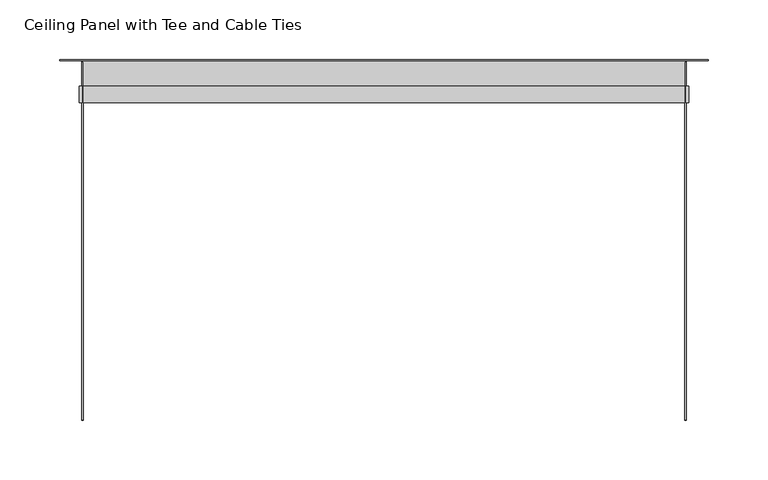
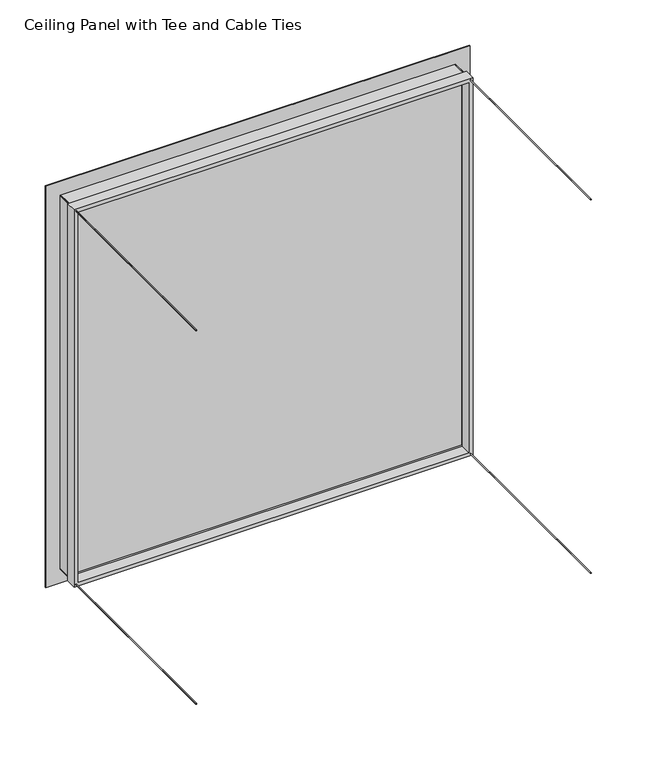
"""IFC4 building model written with IfcOpenShell, lengths in millimetres: plate geometry, Ceiling Panel with Tee and Cable Ties : Ceiling Panel (Vinyl) with Tee and Cable Ties Edge 3."""

import ifcopenshell
import ifcopenshell.guid

model = None  # the IFC model being written
_history = None  # IfcOwnerHistory: only IFC2X3 demands one
_inside = {}  # id of a spatial element -> (the spatial element, [elements in it])
_under = {}  # id of a project, library or spatial element -> (it, [spatial elements below it])
_declared = {}  # id of a project -> (the project, [libraries it declares])
_typed = {}  # id of a type object -> (the type object, [elements of that type])
_made_of = {}  # id of a material, layer set ... -> (it, [elements and type objects made of it])


def new_model(schema):
    """Start an empty IFC model of exactly this schema.

    Asked for "IFC4X3", IfcOpenShell would pick the latest addendum, in which some entities
    have other attributes; the version numbers below select the first issue.
    IFC2X3 requires an IfcOwnerHistory on every rooted entity: one is made here for all.
    """
    global model, _history
    if schema == "IFC4X3":
        model = ifcopenshell.file(schema_version=(4, 3, 0, 0))
    else:
        model = ifcopenshell.file(schema=schema)
    _inside.clear()
    _under.clear()
    _declared.clear()
    _typed.clear()
    _made_of.clear()
    _history = None
    if model.schema == "IFC2X3":
        org = make("IfcOrganization", Name="unknown")
        user = make(
            "IfcPersonAndOrganization",
            ThePerson=make("IfcPerson", FamilyName="unknown"),
            TheOrganization=org,
        )
        app = make(
            "IfcApplication",
            ApplicationDeveloper=org,
            Version="unknown",
            ApplicationFullName="unknown",
            ApplicationIdentifier="unknown",
        )
        _history = make(
            "IfcOwnerHistory",
            OwningUser=user,
            OwningApplication=app,
            ChangeAction="ADDED",
            CreationDate=0,
        )
    return model


def make(cls, **values):
    """One entity of the class cls with the attributes given. An attribute that is None is left unset."""
    return model.create_entity(
        cls, **{name: value for name, value in values.items() if value is not None}
    )


def rooted(cls, **values):
    """An entity with a GlobalId (a new one), such as an element, a storey or a relation."""
    return make(cls, GlobalId=ifcopenshell.guid.new(), OwnerHistory=_history, **values)


def si_unit(unit_type, name, prefix=None):
    """IfcSIUnit, for example si_unit("LENGTHUNIT", "METRE", prefix="MILLI")."""
    return make("IfcSIUnit", UnitType=unit_type, Prefix=prefix, Name=name)


def assignment(units):
    """IfcUnitAssignment: the units of a project."""
    return None if units is None else make("IfcUnitAssignment", Units=units)


def point(xyz):
    """IfcCartesianPoint."""
    return None if xyz is None else make("IfcCartesianPoint", Coordinates=xyz)


def direction(xyz):
    """IfcDirection."""
    return None if xyz is None else make("IfcDirection", DirectionRatios=xyz)


def frame(location, z_axis=None, x_axis=None):
    """IfcAxis2Placement3D, a coordinate frame: its origin and axes. An axis left out is left unset."""
    return make(
        "IfcAxis2Placement3D",
        Location=point(location),
        Axis=direction(z_axis),
        RefDirection=direction(x_axis),
    )


def frame_2d(location, x_axis=None):
    """IfcAxis2Placement2D, a coordinate frame in the plane: its origin and x axis."""
    return make(
        "IfcAxis2Placement2D", Location=point(location), RefDirection=direction(x_axis)
    )


def origin():
    """The frame at (0, 0, 0) with its axes left unset."""
    return frame((0.0, 0.0, 0.0))


def origin_with_axes():
    """The frame at (0, 0, 0) with the z axis (0, 0, 1) and the x axis (1, 0, 0) written out."""
    return frame((0.0, 0.0, 0.0), z_axis=(0.0, 0.0, 1.0), x_axis=(1.0, 0.0, 0.0))


def place(relative_to, where):
    """IfcLocalPlacement: puts the frame where relative to a parent placement (None: the world)."""
    return make(
        "IfcLocalPlacement", PlacementRelTo=relative_to, RelativePlacement=where
    )


def context(
    kind, dimensions, precision=None, world=None, true_north=None, identifier=None
):
    """IfcGeometricRepresentationContext, for example the 3D "Model" context."""
    return make(
        "IfcGeometricRepresentationContext",
        ContextIdentifier=identifier,
        ContextType=kind,
        CoordinateSpaceDimension=dimensions,
        Precision=precision,
        WorldCoordinateSystem=world,
        TrueNorth=true_north,
    )


def project(units=None, contexts=None):
    """IfcProject with its units and contexts."""
    return rooted(
        "IfcProject",
        Name="project",
        RepresentationContexts=contexts,
        UnitsInContext=assignment(units),
    )


def spatial(cls, under=None, at=None, **own):
    """A site, building, storey or space (cls), placed at a placement, below another one or the project."""
    s = rooted(cls, ObjectPlacement=at, **own)
    if under is not None:
        _under.setdefault(under.id(), (under, []))[1].append(s)
    return s


def polyline(points):
    """IfcPolyline through the points."""
    return make("IfcPolyline", Points=[point(p) for p in points])


def circle_curve(where, radius):
    """IfcCircle in the frame where."""
    return make("IfcCircle", Position=where, Radius=radius)


def trimmed(basis, trim1, trim2, sense, master):
    """IfcTrimmedCurve: the piece of a basis curve between two trims."""
    return make(
        "IfcTrimmedCurve",
        BasisCurve=basis,
        Trim1=trim1,
        Trim2=trim2,
        SenseAgreement=sense,
        MasterRepresentation=master,
    )


def segment(curve, same_sense, transition):
    """IfcCompositeCurveSegment."""
    return make(
        "IfcCompositeCurveSegment",
        Transition=transition,
        SameSense=same_sense,
        ParentCurve=curve,
    )


def composite_curve(segments, self_intersect=None):
    """IfcCompositeCurve: segments joined end to end."""
    return make("IfcCompositeCurve", Segments=segments, SelfIntersect=self_intersect)


def outline(outer, holes=None, kind="AREA"):
    """IfcArbitraryClosedProfileDef: a profile drawn as a closed curve; with holes, ...WithVoids."""
    if holes is None:
        return make("IfcArbitraryClosedProfileDef", ProfileType=kind, OuterCurve=outer)
    return make(
        "IfcArbitraryProfileDefWithVoids",
        ProfileType=kind,
        OuterCurve=outer,
        InnerCurves=holes,
    )


def extrude(swept, where, along, depth):
    """IfcExtrudedAreaSolid: the profile swept, set in the frame where, extruded along a direction by depth."""
    return make(
        "IfcExtrudedAreaSolid",
        SweptArea=swept,
        Position=where,
        ExtrudedDirection=direction(along),
        Depth=depth,
    )


def faces_of(points, faces, orient=None, outer=None):
    """IfcFace entities. A face is a list of loops; a loop is a list of indices into points, from 0.

    orient and outer hold one flag for each loop. By default every Orientation is true, the
    first loop of a face is its IfcFaceOuterBound and the others are IfcFaceBound.
    """
    made = []
    for i, loops in enumerate(faces):
        bounds = []
        for j, loop in enumerate(loops):
            is_outer = j == 0 if outer is None else outer[i][j]
            bounds.append(
                make(
                    "IfcFaceOuterBound" if is_outer else "IfcFaceBound",
                    Bound=make("IfcPolyLoop", Polygon=[points[k] for k in loop]),
                    Orientation=True if orient is None else orient[i][j],
                )
            )
        made.append(make("IfcFace", Bounds=bounds))
    return made


def faceted_brep(points, faces, orient=None, outer=None, voids=None):
    """IfcFacetedBrep: a solid bounded by flat faces; with voids (closed shells), ...WithVoids."""
    shared = [point(p) for p in points]
    hull = make("IfcClosedShell", CfsFaces=faces_of(shared, faces, orient, outer))
    if voids is None:
        return make("IfcFacetedBrep", Outer=hull)
    return make(
        "IfcFacetedBrepWithVoids",
        Outer=hull,
        Voids=[
            make(cls, CfsFaces=faces_of(shared, fs, o, b)) for cls, fs, o, b in voids
        ],
    )


def shape(context_of_items, identifier, shape_type, items):
    """IfcShapeRepresentation: the items that make up one representation, for example the "Body"."""
    return make(
        "IfcShapeRepresentation",
        ContextOfItems=context_of_items,
        RepresentationIdentifier=identifier,
        RepresentationType=shape_type,
        Items=items,
    )


def source(mapping_origin, context_of_items, identifier, shape_type, items):
    """IfcRepresentationMap: a shape defined once, which mapped items show again and again."""
    return make(
        "IfcRepresentationMap",
        MappingOrigin=mapping_origin,
        MappedRepresentation=shape(context_of_items, identifier, shape_type, items),
    )


def transform(
    local_origin,
    x_axis=None,
    y_axis=None,
    z_axis=None,
    scale=None,
    scale2=None,
    scale3=None,
    uniform=True,
):
    """IfcCartesianTransformationOperator3D, or its non-uniform kind. x_axis, y_axis, z_axis: its Axis1, 2, 3."""
    if uniform:
        return make(
            "IfcCartesianTransformationOperator3D",
            Axis1=direction(x_axis),
            Axis2=direction(y_axis),
            LocalOrigin=point(local_origin),
            Scale=scale,
            Axis3=direction(z_axis),
        )
    return make(
        "IfcCartesianTransformationOperator3DnonUniform",
        Axis1=direction(x_axis),
        Axis2=direction(y_axis),
        LocalOrigin=point(local_origin),
        Scale=scale,
        Axis3=direction(z_axis),
        Scale2=scale2,
        Scale3=scale3,
    )


def mapped(mapping_source, mapping_target):
    """IfcMappedItem: shows the shape of a source again, moved by a transform."""
    return make(
        "IfcMappedItem", MappingSource=mapping_source, MappingTarget=mapping_target
    )


def made_of(thing, what):
    """Note that an element or type object is made of a material, layer set ...; save() writes the relation."""
    if what is not None:
        _made_of.setdefault(what.id(), (what, []))[1].append(thing)
    return thing


def element(
    cls,
    number,
    at=None,
    inside=None,
    cuts=None,
    type_object=None,
    material=None,
    context=None,
    identifier="Body",
    shape_type=None,
    held_by="IfcProductDefinitionShape",
    body=None,
    shapes=None,
    **own,
):
    """One element of the class cls, such as IfcWall. Its Tag is "e" and its number.

    at: its placement. inside: the storey or other place that contains it. cuts: it is an
    opening in that element (IfcRelVoidsElement). A single representation is given by context,
    identifier, shape_type and body (its items); several are given by shapes. held_by: the class
    of the entity that holds the representations. save() writes the other relations.
    """
    e = rooted(cls, Tag="e%d" % number, ObjectPlacement=at, **own)
    if body is not None:
        shapes = [shape(context, identifier, shape_type, body)]
    if shapes is not None:
        e.Representation = make(held_by, Representations=shapes)
    if inside is not None:
        _inside.setdefault(inside.id(), (inside, []))[1].append(e)
    if cuts is not None:
        rooted(
            "IfcRelVoidsElement", RelatingBuildingElement=cuts, RelatedOpeningElement=e
        )
    if type_object is not None:
        _typed.setdefault(type_object.id(), (type_object, []))[1].append(e)
    return made_of(e, material)


def aggregate(whole, parts):
    """IfcRelAggregates: a whole, such as a stair, and the parts it consists of."""
    return rooted("IfcRelAggregates", RelatingObject=whole, RelatedObjects=parts)


def save(model, path):
    """Write the relations noted so far, then the file.

    IfcRelAggregates (storeys below a building ...), IfcRelContainedInSpatialStructure (elements
    in a storey), IfcRelDefinesByType, IfcRelAssociatesMaterial and IfcRelDeclares: one each for
    every whole, place, type object, material and project.
    """
    for whole, parts in _under.values():
        aggregate(whole, parts)
    for where, things in _inside.values():
        rooted(
            "IfcRelContainedInSpatialStructure",
            RelatedElements=things,
            RelatingStructure=where,
        )
    for kind, things in _typed.values():
        rooted("IfcRelDefinesByType", RelatedObjects=things, RelatingType=kind)
    for what, things in _made_of.values():
        rooted("IfcRelAssociatesMaterial", RelatedObjects=things, RelatingMaterial=what)
    for by, libraries in _declared.values():
        rooted("IfcRelDeclares", RelatingContext=by, RelatedDefinitions=libraries)
    model.write(path)


def ceiling_panel_with_tee_and_cable_ties_1653b4b1(model_context):
    return source(origin(), model_context, "Body", "SolidModel", [
        extrude(outline(composite_curve([segment(trimmed(circle_curve(frame_2d((505.0, 252.4999998)), 0.5), [point((505.0, 252.9999998))], [point((505.0, 251.9999998))], False, "CARTESIAN"), True, "CONTINUOUS"), segment(trimmed(circle_curve(frame_2d((505.0, 252.4999998)), 0.5), [point((505.0, 251.9999998))], [point((505.0, 252.9999998))], False, "CARTESIAN"), True, "CONTINUOUS")], self_intersect=False)), frame((0.0, -300.0, 0.0), z_axis=(0.0, 1.0, 0.0), x_axis=(0.0, 0.0, 1.0)), (0.0, 0.0, 1.0), 300.0),
        extrude(outline(composite_curve([segment(trimmed(circle_curve(frame_2d((505.0, -252.4999998)), 0.5), [point((505.0, -251.9999998))], [point((505.0, -252.9999998))], False, "CARTESIAN"), True, "CONTINUOUS"), segment(trimmed(circle_curve(frame_2d((505.0, -252.4999998)), 0.5), [point((505.0, -252.9999998))], [point((505.0, -251.9999998))], False, "CARTESIAN"), True, "CONTINUOUS")], self_intersect=False)), frame((0.0, -300.0, 0.0), z_axis=(0.0, 1.0, 0.0), x_axis=(0.0, 0.0, 1.0)), (0.0, 0.0, 1.0), 300.0),
        extrude(outline(composite_curve([segment(trimmed(circle_curve(frame_2d((0.0, 252.4999998)), 0.5), [point((0.0, 252.9999998))], [point((0.0, 251.9999998))], False, "CARTESIAN"), True, "CONTINUOUS"), segment(trimmed(circle_curve(frame_2d((0.0, 252.4999998)), 0.5), [point((0.0, 251.9999998))], [point((0.0, 252.9999998))], False, "CARTESIAN"), True, "CONTINUOUS")], self_intersect=False)), frame((0.0, -300.0, 0.0), z_axis=(0.0, 1.0, 0.0), x_axis=(0.0, 0.0, 1.0)), (0.0, 0.0, 1.0), 300.0),
        extrude(outline(composite_curve([segment(trimmed(circle_curve(frame_2d((0.0, -252.4999998)), 0.5), [point((0.0, -251.9999998))], [point((0.0, -252.9999998))], False, "CARTESIAN"), True, "CONTINUOUS"), segment(trimmed(circle_curve(frame_2d((0.0, -252.4999998)), 0.5), [point((0.0, -252.9999998))], [point((0.0, -251.9999998))], False, "CARTESIAN"), True, "CONTINUOUS")], self_intersect=False)), frame((0.0, -300.0, 0.0), z_axis=(0.0, 1.0, 0.0), x_axis=(0.0, 0.0, 1.0)), (0.0, 0.0, 1.0), 300.0),
        faceted_brep([(233.4999998, 1.0, 486.0), (233.4999998, 2.0, 486.0), (233.4999998, 2.0, 19.0), (233.4999998, 1.0, 19.0), (251.9999998, -20.0, 504.5), (251.9999998, 1.0, 504.5), (251.9999998, 1.0, 0.5), (251.9999998, -20.0, 0.5), (249.9999998, -34.0, 502.5), (249.9999998, -20.0, 502.5), (249.9999998, -20.0, 2.5), (249.9999998, -34.0, 2.5), (254.9999998, -20.0, 507.5), (254.9999998, -34.0, 507.5), (254.9999998, -34.0, -2.5), (254.9999998, -20.0, -2.5), (252.9999998, 1.0, 505.5), (252.9999998, -20.0, 505.5), (252.9999998, -20.0, -0.5), (252.9999998, 1.0, -0.5), (271.4999998, 2.0, 524.0), (271.4999998, 1.0, 524.0), (271.4999998, 1.0, -19.0), (271.4999998, 2.0, -19.0), (-233.4999998, 2.0, 19.0), (-233.4999998, 1.0, 19.0), (-251.9999998, 1.0, 0.5), (-251.9999998, -20.0, 0.5), (-249.9999998, -20.0, 2.5), (-249.9999998, -34.0, 2.5), (-254.9999998, -34.0, -2.5), (-254.9999998, -20.0, -2.5), (-252.9999998, -20.0, -0.5), (-252.9999998, 1.0, -0.5), (-271.4999998, 1.0, -19.0), (-271.4999998, 2.0, -19.0), (-233.4999998, 2.0, 486.0), (-233.4999998, 1.0, 486.0), (-251.9999998, 1.0, 504.5), (-251.9999998, -20.0, 504.5), (-249.9999998, -20.0, 502.5), (-249.9999998, -34.0, 502.5), (-254.9999998, -34.0, 507.5), (-254.9999998, -20.0, 507.5), (-252.9999998, -20.0, 505.5), (-252.9999998, 1.0, 505.5), (-271.4999998, 1.0, 524.0), (-271.4999998, 2.0, 524.0)], [[[0, 1, 2, 3]], [[4, 5, 6, 7]], [[8, 9, 10, 11]], [[12, 13, 14, 15]], [[16, 17, 18, 19]], [[20, 21, 22, 23]], [[3, 2, 24, 25]], [[7, 6, 26, 27]], [[11, 10, 28, 29]], [[15, 14, 30, 31]], [[19, 18, 32, 33]], [[23, 22, 34, 35]], [[25, 24, 36, 37]], [[27, 26, 38, 39]], [[29, 28, 40, 41]], [[31, 30, 42, 43]], [[33, 32, 44, 45]], [[35, 34, 46, 47]], [[23, 35, 47, 20], [1, 36, 24, 2]], [[37, 36, 1, 0]], [[5, 38, 26, 6], [3, 25, 37, 0]], [[39, 38, 5, 4]], [[7, 27, 39, 4], [9, 40, 28, 10]], [[41, 40, 9, 8]], [[13, 42, 30, 14], [11, 29, 41, 8]], [[43, 42, 13, 12]], [[15, 31, 43, 12], [17, 44, 32, 18]], [[45, 44, 17, 16]], [[21, 46, 34, 22], [19, 33, 45, 16]], [[47, 46, 21, 20]]]),
        extrude(outline(polyline([(252.4999998, -15.0), (-252.4999998, -15.0), (-252.4999998, 0.0), (252.4999998, 0.0), (252.4999998, -15.0)])), origin_with_axes(), (0.0, 0.0, 1.0), 505.0),
    ])


if __name__ == "__main__":
    model = new_model("IFC4")
    model_context = context("Model", 3, world=origin())
    ifc_project = project(units=[si_unit("LENGTHUNIT", "METRE", prefix="MILLI")], contexts=[model_context])
    site = spatial("IfcSite", under=ifc_project)
    building = spatial("IfcBuilding", under=site)
    placement = place(None, origin())
    ceiling_panel_with_tee_and_cable_ties_shape = ceiling_panel_with_tee_and_cable_ties_1653b4b1(model_context)
    element("IfcPlate", 1, ObjectType="Ceiling Panel with Tee and Cable Ties : Ceiling Panel (Vinyl) with Tee and Cable Ties Edge 3", at=placement, inside=building, context=model_context, shape_type="MappedRepresentation", body=[
        mapped(ceiling_panel_with_tee_and_cable_ties_shape, transform((0.0, 0.0, 0.0), x_axis=(1.0, 0.0, 0.0), y_axis=(0.0, 1.0, 0.0), z_axis=(0.0, 0.0, 1.0))),
    ])
    save(model, "model.ifc")
